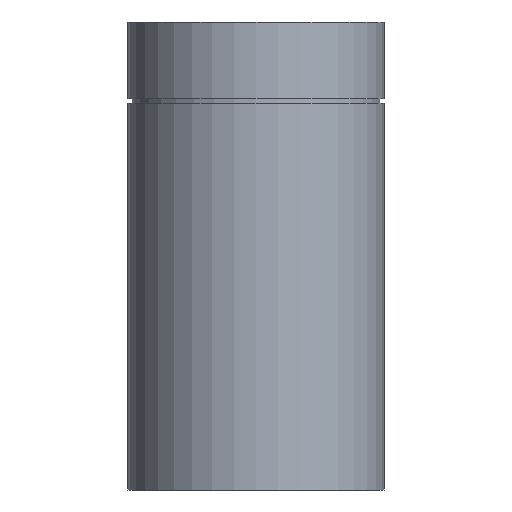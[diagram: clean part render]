
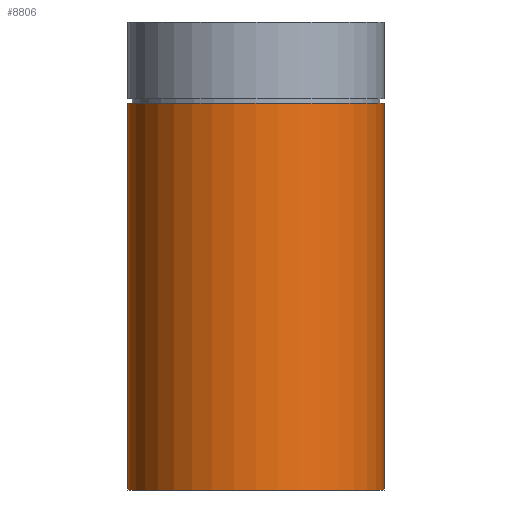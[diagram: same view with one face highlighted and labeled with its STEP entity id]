
A CAD part, front view. The second image highlights one B-rep face of the part: STEP entity #8806.
In plain terms, the highlighted cylindrical face has radius 30 mm (diameter 60 mm), a full revolution.
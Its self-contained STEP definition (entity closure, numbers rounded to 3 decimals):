
#448=CYLINDRICAL_SURFACE('',#9273,30.);
#647=CIRCLE('',#9250,30.);
#659=CIRCLE('',#9272,30.);
#1089=FACE_OUTER_BOUND('',#1580,.T.);
#1580=EDGE_LOOP('',(#6593,#6594,#6595,#6596));
#2176=LINE('',#15369,#2888);
#2888=VECTOR('',#10460,30.);
#3652=VERTEX_POINT('',#15296);
#3668=VERTEX_POINT('',#15366);
#4690=EDGE_CURVE('',#3652,#3652,#647,.T.);
#4712=EDGE_CURVE('',#3668,#3668,#659,.T.);
#4713=EDGE_CURVE('',#3652,#3668,#2176,.T.);
#6593=ORIENTED_EDGE('',*,*,#4690,.F.);
#6594=ORIENTED_EDGE('',*,*,#4713,.T.);
#6595=ORIENTED_EDGE('',*,*,#4712,.T.);
#6596=ORIENTED_EDGE('',*,*,#4713,.F.);
#8806=ADVANCED_FACE('',(#1089),#448,.T.);
#9250=AXIS2_PLACEMENT_3D('',#15297,#10404,#10405);
#9272=AXIS2_PLACEMENT_3D('',#15367,#10456,#10457);
#9273=AXIS2_PLACEMENT_3D('',#15368,#10458,#10459);
#10404=DIRECTION('center_axis',(0.,0.,
-1.));
#10405=DIRECTION('ref_axis',(-1.,0.,0.));
#10456=DIRECTION('center_axis',(0.,0.,
-1.));
#10457=DIRECTION('ref_axis',(-1.,0.,0.));
#10458=DIRECTION('center_axis',(0.,0.,
-1.));
#10459=DIRECTION('ref_axis',(-1.,0.,0.));
#10460=DIRECTION('',(0.,0.,1.));
#15296=CARTESIAN_POINT('',(30.,0.,-53.514));
#15297=CARTESIAN_POINT('Origin',(0.,0.,
-53.514));
#15366=CARTESIAN_POINT('',(30.,0.,36.986));
#15367=CARTESIAN_POINT('Origin',(0.,0.,
36.986));
#15368=CARTESIAN_POINT('Origin',(0.,0.,
-8.264));
#15369=CARTESIAN_POINT('',(30.,0.,-8.264));
